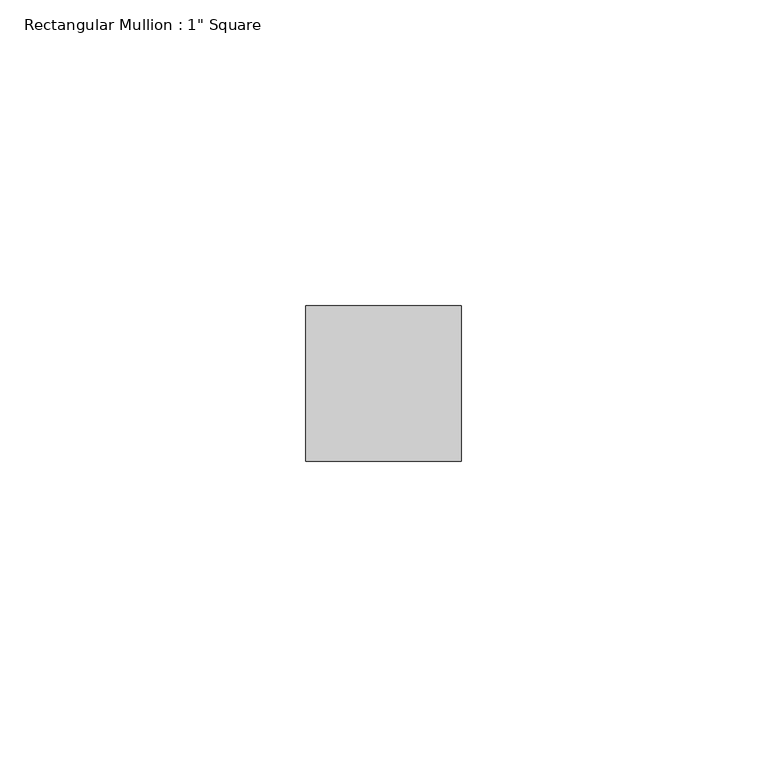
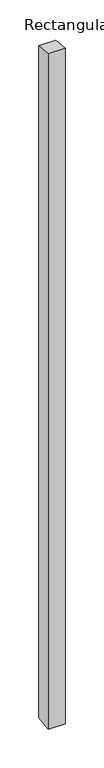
"""IFC4 building model written with IfcOpenShell, lengths in millimetres: member geometry."""

import ifcopenshell
import ifcopenshell.guid

model = None  # the IFC model being written
_history = None  # IfcOwnerHistory: only IFC2X3 demands one
_inside = {}  # id of a spatial element -> (the spatial element, [elements in it])
_under = {}  # id of a project, library or spatial element -> (it, [spatial elements below it])
_declared = {}  # id of a project -> (the project, [libraries it declares])
_typed = {}  # id of a type object -> (the type object, [elements of that type])
_made_of = {}  # id of a material, layer set ... -> (it, [elements and type objects made of it])


def new_model(schema):
    """Start an empty IFC model of exactly this schema.

    Asked for "IFC4X3", IfcOpenShell would pick the latest addendum, in which some entities
    have other attributes; the version numbers below select the first issue.
    IFC2X3 requires an IfcOwnerHistory on every rooted entity: one is made here for all.
    """
    global model, _history
    if schema == "IFC4X3":
        model = ifcopenshell.file(schema_version=(4, 3, 0, 0))
    else:
        model = ifcopenshell.file(schema=schema)
    _inside.clear()
    _under.clear()
    _declared.clear()
    _typed.clear()
    _made_of.clear()
    _history = None
    if model.schema == "IFC2X3":
        org = make("IfcOrganization", Name="unknown")
        user = make(
            "IfcPersonAndOrganization",
            ThePerson=make("IfcPerson", FamilyName="unknown"),
            TheOrganization=org,
        )
        app = make(
            "IfcApplication",
            ApplicationDeveloper=org,
            Version="unknown",
            ApplicationFullName="unknown",
            ApplicationIdentifier="unknown",
        )
        _history = make(
            "IfcOwnerHistory",
            OwningUser=user,
            OwningApplication=app,
            ChangeAction="ADDED",
            CreationDate=0,
        )
    return model


def make(cls, **values):
    """One entity of the class cls with the attributes given. An attribute that is None is left unset."""
    return model.create_entity(
        cls, **{name: value for name, value in values.items() if value is not None}
    )


def rooted(cls, **values):
    """An entity with a GlobalId (a new one), such as an element, a storey or a relation."""
    return make(cls, GlobalId=ifcopenshell.guid.new(), OwnerHistory=_history, **values)


def si_unit(unit_type, name, prefix=None):
    """IfcSIUnit, for example si_unit("LENGTHUNIT", "METRE", prefix="MILLI")."""
    return make("IfcSIUnit", UnitType=unit_type, Prefix=prefix, Name=name)


def assignment(units):
    """IfcUnitAssignment: the units of a project."""
    return None if units is None else make("IfcUnitAssignment", Units=units)


def point(xyz):
    """IfcCartesianPoint."""
    return None if xyz is None else make("IfcCartesianPoint", Coordinates=xyz)


def direction(xyz):
    """IfcDirection."""
    return None if xyz is None else make("IfcDirection", DirectionRatios=xyz)


def frame(location, z_axis=None, x_axis=None):
    """IfcAxis2Placement3D, a coordinate frame: its origin and axes. An axis left out is left unset."""
    return make(
        "IfcAxis2Placement3D",
        Location=point(location),
        Axis=direction(z_axis),
        RefDirection=direction(x_axis),
    )


def origin():
    """The frame at (0, 0, 0) with its axes left unset."""
    return frame((0.0, 0.0, 0.0))


def place(relative_to, where):
    """IfcLocalPlacement: puts the frame where relative to a parent placement (None: the world)."""
    return make(
        "IfcLocalPlacement", PlacementRelTo=relative_to, RelativePlacement=where
    )


def context(
    kind, dimensions, precision=None, world=None, true_north=None, identifier=None
):
    """IfcGeometricRepresentationContext, for example the 3D "Model" context."""
    return make(
        "IfcGeometricRepresentationContext",
        ContextIdentifier=identifier,
        ContextType=kind,
        CoordinateSpaceDimension=dimensions,
        Precision=precision,
        WorldCoordinateSystem=world,
        TrueNorth=true_north,
    )


def project(units=None, contexts=None):
    """IfcProject with its units and contexts."""
    return rooted(
        "IfcProject",
        Name="project",
        RepresentationContexts=contexts,
        UnitsInContext=assignment(units),
    )


def spatial(cls, under=None, at=None, **own):
    """A site, building, storey or space (cls), placed at a placement, below another one or the project."""
    s = rooted(cls, ObjectPlacement=at, **own)
    if under is not None:
        _under.setdefault(under.id(), (under, []))[1].append(s)
    return s


def polyline(points):
    """IfcPolyline through the points."""
    return make("IfcPolyline", Points=[point(p) for p in points])


def outline(outer, holes=None, kind="AREA"):
    """IfcArbitraryClosedProfileDef: a profile drawn as a closed curve; with holes, ...WithVoids."""
    if holes is None:
        return make("IfcArbitraryClosedProfileDef", ProfileType=kind, OuterCurve=outer)
    return make(
        "IfcArbitraryProfileDefWithVoids",
        ProfileType=kind,
        OuterCurve=outer,
        InnerCurves=holes,
    )


def extrude(swept, where, along, depth):
    """IfcExtrudedAreaSolid: the profile swept, set in the frame where, extruded along a direction by depth."""
    return make(
        "IfcExtrudedAreaSolid",
        SweptArea=swept,
        Position=where,
        ExtrudedDirection=direction(along),
        Depth=depth,
    )


def shape(context_of_items, identifier, shape_type, items):
    """IfcShapeRepresentation: the items that make up one representation, for example the "Body"."""
    return make(
        "IfcShapeRepresentation",
        ContextOfItems=context_of_items,
        RepresentationIdentifier=identifier,
        RepresentationType=shape_type,
        Items=items,
    )


def source(mapping_origin, context_of_items, identifier, shape_type, items):
    """IfcRepresentationMap: a shape defined once, which mapped items show again and again."""
    return make(
        "IfcRepresentationMap",
        MappingOrigin=mapping_origin,
        MappedRepresentation=shape(context_of_items, identifier, shape_type, items),
    )


def transform(
    local_origin,
    x_axis=None,
    y_axis=None,
    z_axis=None,
    scale=None,
    scale2=None,
    scale3=None,
    uniform=True,
):
    """IfcCartesianTransformationOperator3D, or its non-uniform kind. x_axis, y_axis, z_axis: its Axis1, 2, 3."""
    if uniform:
        return make(
            "IfcCartesianTransformationOperator3D",
            Axis1=direction(x_axis),
            Axis2=direction(y_axis),
            LocalOrigin=point(local_origin),
            Scale=scale,
            Axis3=direction(z_axis),
        )
    return make(
        "IfcCartesianTransformationOperator3DnonUniform",
        Axis1=direction(x_axis),
        Axis2=direction(y_axis),
        LocalOrigin=point(local_origin),
        Scale=scale,
        Axis3=direction(z_axis),
        Scale2=scale2,
        Scale3=scale3,
    )


def mapped(mapping_source, mapping_target):
    """IfcMappedItem: shows the shape of a source again, moved by a transform."""
    return make(
        "IfcMappedItem", MappingSource=mapping_source, MappingTarget=mapping_target
    )


def made_of(thing, what):
    """Note that an element or type object is made of a material, layer set ...; save() writes the relation."""
    if what is not None:
        _made_of.setdefault(what.id(), (what, []))[1].append(thing)
    return thing


def element(
    cls,
    number,
    at=None,
    inside=None,
    cuts=None,
    type_object=None,
    material=None,
    context=None,
    identifier="Body",
    shape_type=None,
    held_by="IfcProductDefinitionShape",
    body=None,
    shapes=None,
    **own,
):
    """One element of the class cls, such as IfcWall. Its Tag is "e" and its number.

    at: its placement. inside: the storey or other place that contains it. cuts: it is an
    opening in that element (IfcRelVoidsElement). A single representation is given by context,
    identifier, shape_type and body (its items); several are given by shapes. held_by: the class
    of the entity that holds the representations. save() writes the other relations.
    """
    e = rooted(cls, Tag="e%d" % number, ObjectPlacement=at, **own)
    if body is not None:
        shapes = [shape(context, identifier, shape_type, body)]
    if shapes is not None:
        e.Representation = make(held_by, Representations=shapes)
    if inside is not None:
        _inside.setdefault(inside.id(), (inside, []))[1].append(e)
    if cuts is not None:
        rooted(
            "IfcRelVoidsElement", RelatingBuildingElement=cuts, RelatedOpeningElement=e
        )
    if type_object is not None:
        _typed.setdefault(type_object.id(), (type_object, []))[1].append(e)
    return made_of(e, material)


def aggregate(whole, parts):
    """IfcRelAggregates: a whole, such as a stair, and the parts it consists of."""
    return rooted("IfcRelAggregates", RelatingObject=whole, RelatedObjects=parts)


def save(model, path):
    """Write the relations noted so far, then the file.

    IfcRelAggregates (storeys below a building ...), IfcRelContainedInSpatialStructure (elements
    in a storey), IfcRelDefinesByType, IfcRelAssociatesMaterial and IfcRelDeclares: one each for
    every whole, place, type object, material and project.
    """
    for whole, parts in _under.values():
        aggregate(whole, parts)
    for where, things in _inside.values():
        rooted(
            "IfcRelContainedInSpatialStructure",
            RelatedElements=things,
            RelatingStructure=where,
        )
    for kind, things in _typed.values():
        rooted("IfcRelDefinesByType", RelatedObjects=things, RelatingType=kind)
    for what, things in _made_of.values():
        rooted("IfcRelAssociatesMaterial", RelatedObjects=things, RelatingMaterial=what)
    for by, libraries in _declared.values():
        rooted("IfcRelDeclares", RelatingContext=by, RelatedDefinitions=libraries)
    model.write(path)


def member_f9a14158(model_context):
    return source(origin(), model_context, "Body", "SweptSolid", [
        extrude(outline(polyline([(-12.7, 1.4430982), (12.7, -1.4430982), (12.7, -1065.3569018), (-12.7, -1068.2430982), (-12.7, 1.4430982)])), frame((-12.7, 0.0, 0.0), z_axis=(1.0, 0.0, 0.0), x_axis=(0.0, 1.0, 0.0)), (0.0, 0.0, 1.0), 25.4),
    ])


if __name__ == "__main__":
    model = new_model("IFC4")
    model_context = context("Model", 3, world=origin())
    ifc_project = project(units=[si_unit("LENGTHUNIT", "METRE", prefix="MILLI")], contexts=[model_context])
    site = spatial("IfcSite", under=ifc_project)
    building = spatial("IfcBuilding", under=site)
    placement = place(None, origin())
    member_shape = member_f9a14158(model_context)
    element("IfcMember", 1, ObjectType="Rectangular Mullion : 1\" Square", at=placement, inside=building, context=model_context, shape_type="MappedRepresentation", body=[
        mapped(member_shape, transform((0.0, 0.0, 0.0), x_axis=(1.0, 0.0, 0.0), y_axis=(0.0, 1.0, 0.0), z_axis=(0.0, 0.0, 1.0))),
    ])
    save(model, "model.ifc")
